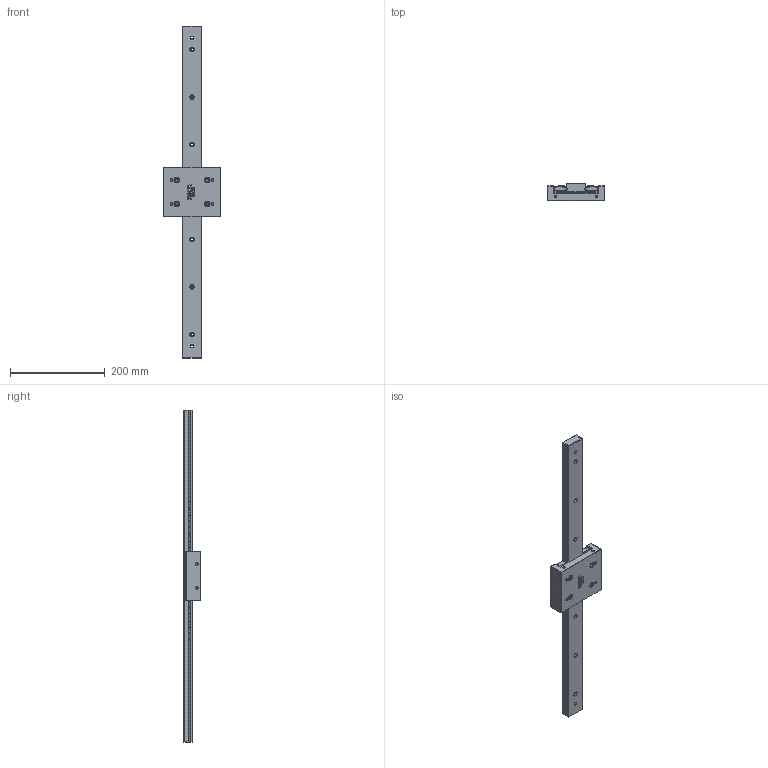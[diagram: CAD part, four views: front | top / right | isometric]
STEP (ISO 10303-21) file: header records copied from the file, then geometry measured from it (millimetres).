
FILE_DESCRIPTION(/* description */ ('TAVOLA TRKD06 L= 700 mm'),/* implementation_level */ '2;1');
FILE_NAME(/* name */ 'TRKD060700-00.stp',/* time_stamp */ '2024-01-25T10:46:36+01:00',/* author */ ('Rosa Sistemi'),/* organization */ (''),/* preprocessor_version */ 'ST-DEVELOPER v20',/* originating_system */ 'Autodesk Inventor 2024',/* authorisation */ '');
FILE_SCHEMA (('AUTOMOTIVE_DESIGN { 1 0 10303 214 3 1 1 }'));
Length unit declared in the file: millimetre
Products named in the file (2): TRKD060700-00; TRKD060700-00_1
Assembly tree (1 placements, depth 2):
  TRKD060700-00
    TRKD060700-00_1
Bounding box: 120 x 36 x 700 mm (x, y, z)
Volume: 829235.5 mm3; surface area: 159672.3 mm2
Topology: 13 solids, 13 shells, 686 faces, 1765 edges, 1135 vertices
Faces by surface type: plane 419, cylinder 93, cone 88, bspline 36, sphere 26, torus 24
Full cylindrical faces by diameter (mm): 2 x2, 2.795 x1, 4.134 x4, 4.917 x19, 6 x15, 7 x3, 7.687 x1, 9.5 x7, 9.9 x4, 10 x4, 11 x4
Entity records: 21808 total; most frequent: CARTESIAN_POINT 4591, ORIENTED_EDGE 3402, DIRECTION 3310, EDGE_CURVE 1701, AXIS2_PLACEMENT_3D 1138, VERTEX_POINT 1135, LINE 1034, VECTOR 1034
